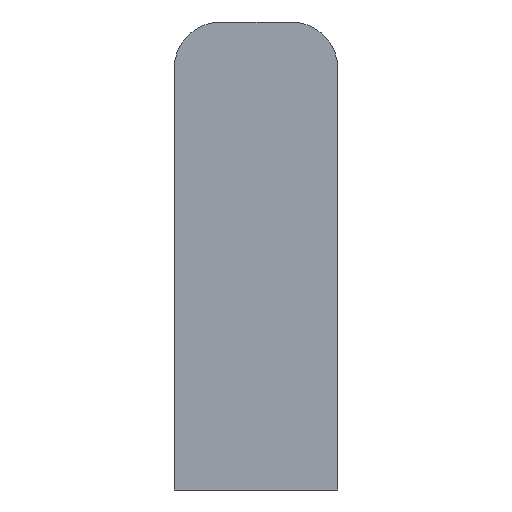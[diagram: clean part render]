
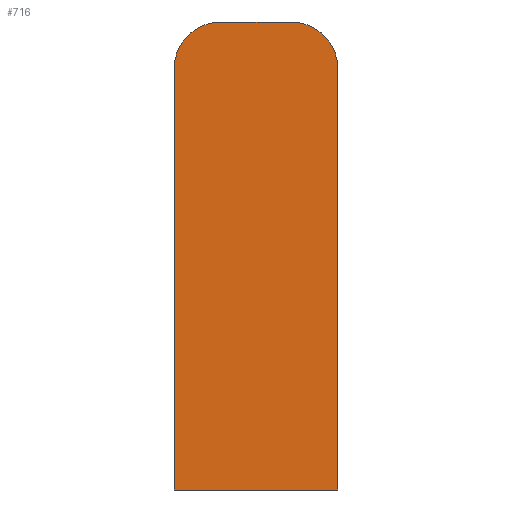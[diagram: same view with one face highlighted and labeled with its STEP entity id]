
A CAD part, front view. The second image highlights one B-rep face of the part: STEP entity #716.
In plain terms, the highlighted planar face has unit normal (0, -1, 0).
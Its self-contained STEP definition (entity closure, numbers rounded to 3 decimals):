
#4 = VERTEX_POINT ( 'NONE', #598 ) ;
#7 = VERTEX_POINT ( 'NONE', #599 ) ;
#22 = VERTEX_POINT ( 'NONE', #34 ) ;
#23 = VERTEX_POINT ( 'NONE', #35 ) ;
#34 = CARTESIAN_POINT ( 'NONE',  ( 2.25, 0., 13.5 ) ) ;
#35 = CARTESIAN_POINT ( 'NONE',  ( -5.25, 0., 10.5 ) ) ;
#50 = CARTESIAN_POINT ( 'NONE',  ( -5.25, 0., -16.5 ) ) ;
#54 = CARTESIAN_POINT ( 'NONE',  ( 5.25, 0., 10.5 ) ) ;
#66 = CARTESIAN_POINT ( 'NONE',  ( 2.25, 0., 13.5 ) ) ;
#72 = DIRECTION ( 'NONE',  ( -1., 0., 0. ) ) ;
#78 = CARTESIAN_POINT ( 'NONE',  ( -2.25, 0., 10.5 ) ) ;
#79 = DIRECTION ( 'NONE',  ( 0., -1., 0. ) ) ;
#80 = DIRECTION ( 'NONE',  ( -1., 0., 0. ) ) ;
#94 = CARTESIAN_POINT ( 'NONE',  ( 2.25, 0., 10.5 ) ) ;
#103 = DIRECTION ( 'NONE',  ( 0., -1., 0. ) ) ;
#104 = DIRECTION ( 'NONE',  ( -1., 0., 0. ) ) ;
#111 = CARTESIAN_POINT ( 'NONE',  ( -5.25, 0., -16.5 ) ) ;
#114 = DIRECTION ( 'NONE',  ( 0., 0., -1. ) ) ;
#123 = CARTESIAN_POINT ( 'NONE',  ( 5.25, 0., -16.5 ) ) ;
#124 = DIRECTION ( 'NONE',  ( 0., 0., 1. ) ) ;
#170 = CARTESIAN_POINT ( 'NONE',  ( 5.25, 0., -16.5 ) ) ;
#171 = DIRECTION ( 'NONE',  ( 1., 0., 0. ) ) ;
#229 = CARTESIAN_POINT ( 'NONE',  ( 0., 0., -1.5 ) ) ;
#230 = PLANE ( 'NONE',  #679 ) ;
#232 = DIRECTION ( 'NONE',  ( 0., 1., 0. ) ) ;
#233 = DIRECTION ( 'NONE',  ( -1., 0., 0. ) ) ;
#303 = VECTOR ( 'NONE', #171, 1000. ) ;
#304 = LINE ( 'NONE', #170, #303 ) ;
#320 = ORIENTED_EDGE ( 'NONE', *, *, #644, .T. ) ;
#392 = ORIENTED_EDGE ( 'NONE', *, *, #608, .T. ) ;
#415 = ORIENTED_EDGE ( 'NONE', *, *, #611, .T. ) ;
#430 = EDGE_LOOP ( 'NONE', ( #320, #526, #392, #415, #512, #511 ) ) ;
#433 = VECTOR ( 'NONE', #124, 1000. ) ;
#434 = VECTOR ( 'NONE', #114, 1000. ) ;
#435 = LINE ( 'NONE', #123, #433 ) ;
#450 = VECTOR ( 'NONE', #72, 1000. ) ;
#452 = LINE ( 'NONE', #66, #450 ) ;
#483 = LINE ( 'NONE', #111, #434 ) ;
#484 = CIRCLE ( 'NONE', #650, 3. ) ;
#505 = CIRCLE ( 'NONE', #623, 3. ) ;
#511 = ORIENTED_EDGE ( 'NONE', *, *, #686, .T. ) ;
#512 = ORIENTED_EDGE ( 'NONE', *, *, #640, .T. ) ;
#526 = ORIENTED_EDGE ( 'NONE', *, *, #622, .T. ) ;
#543 = FACE_OUTER_BOUND ( 'NONE', #430, .T. ) ;
#582 = VERTEX_POINT ( 'NONE', #54 ) ;
#588 = VERTEX_POINT ( 'NONE', #50 ) ;
#598 = CARTESIAN_POINT ( 'NONE',  ( -2.25, 0., 13.5 ) ) ;
#599 = CARTESIAN_POINT ( 'NONE',  ( 5.25, 0., -16.5 ) ) ;
#608 = EDGE_CURVE ( 'NONE', #22, #4, #452, .T. ) ;
#611 = EDGE_CURVE ( 'NONE', #4, #23, #505, .T. ) ;
#622 = EDGE_CURVE ( 'NONE', #582, #22, #484, .T. ) ;
#623 = AXIS2_PLACEMENT_3D ( 'NONE', #78, #79, #80 ) ;
#640 = EDGE_CURVE ( 'NONE', #23, #588, #483, .T. ) ;
#644 = EDGE_CURVE ( 'NONE', #7, #582, #435, .T. ) ;
#650 = AXIS2_PLACEMENT_3D ( 'NONE', #94, #103, #104 ) ;
#679 = AXIS2_PLACEMENT_3D ( 'NONE', #229, #232, #233 ) ;
#686 = EDGE_CURVE ( 'NONE', #588, #7, #304, .T. ) ;
#716 = ADVANCED_FACE ( 'NONE', ( #543 ), #230, .F. ) ;
